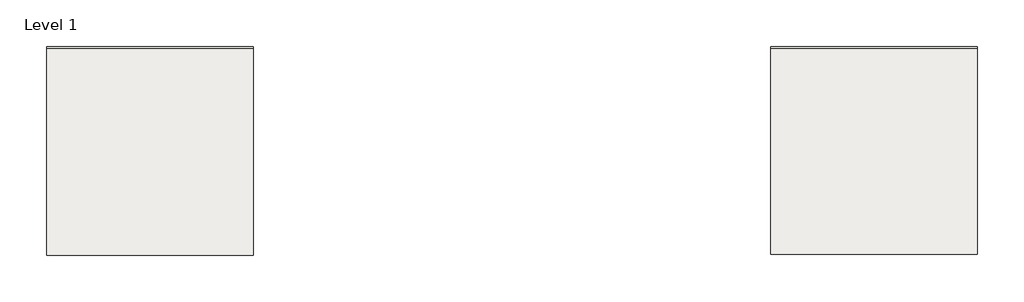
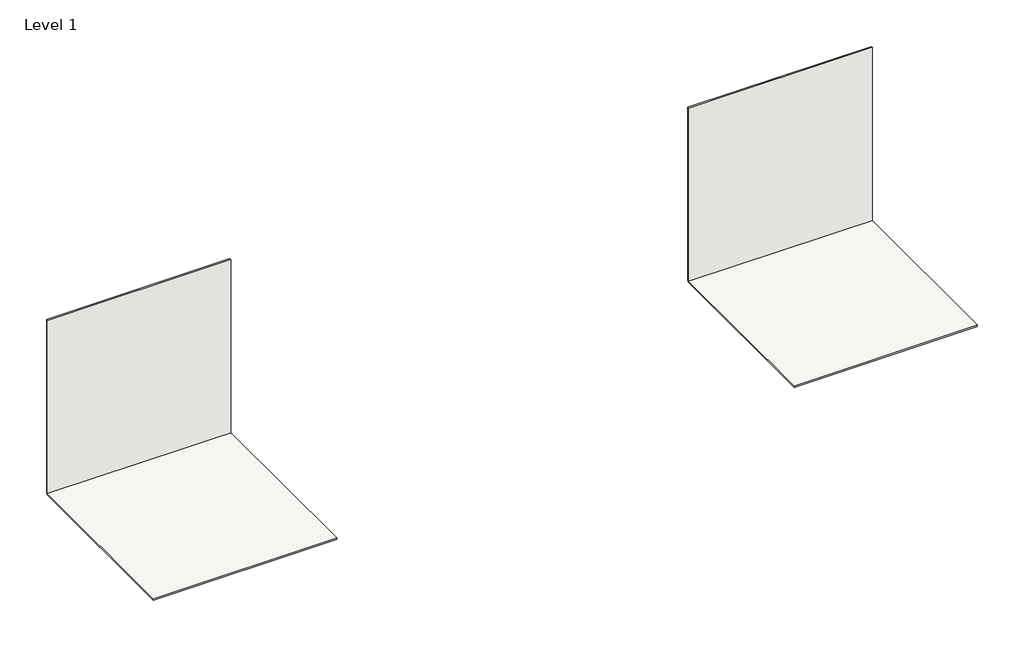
# One storey: 4 coverings.
"""IFC4 building model written with IfcOpenShell, lengths in millimetres."""

from ifc_helpers import new_model, si_unit, frame, origin, origin_with_axes, place, context, project, spatial, polyline, outline, extrude, element, save

model = new_model("IFC4")

# Units and contexts
model_context = context("Model", 3, world=origin())
ifc_project = project(units=[si_unit("LENGTHUNIT", "METRE", prefix="MILLI")], contexts=[model_context])

# Site, building, storey
site = spatial("IfcSite", under=ifc_project)
building = spatial("IfcBuilding", under=site)
storey = spatial("IfcBuildingStorey", under=building, Name="Level 1", Elevation=0.0)

# Coverings
placement = place(None, origin())
element("IfcCovering", 1, ObjectType="REVIGRES-LIMESTONE-DECOR-9.7x59.2-RECT-ANTIQUE MIST", at=placement, inside=storey, context=model_context, shape_type="SweptSolid", body=[
    extrude(outline(polyline([(-18709.3326298, -4077.781086), (-19709.3326298, -4077.781086), (-19709.3326298, -4069.281086), (-18709.3326298, -4069.281086), (-18709.3326298, -4077.781086)])), origin_with_axes(), (0.0, 0.0, 1.0), 1000.0),
])
element("IfcCovering", 2, ObjectType="REVIGRES-LIMESTONE-DECOR-9.7x59.2-RECT-ANTIQUE SAND", at=placement, inside=storey, context=model_context, shape_type="SweptSolid", body=[
    extrude(outline(polyline([(-16209.3576298, -4073.206086), (-15209.3576298, -4073.206086), (-15209.3576298, -5073.206086), (-16209.3576298, -5073.206086), (-16209.3576298, -4073.206086)])), frame((0.0, 0.0, -8.5), z_axis=(0.0, 0.0, 1.0), x_axis=(1.0, 0.0, 0.0)), (0.0, 0.0, 1.0), 8.5),
])
element("IfcCovering", 3, ObjectType="REVIGRES-LIMESTONE-DECOR-9.7x59.2-RECT-ANTIQUE SAND", at=placement, inside=storey, context=model_context, shape_type="SweptSolid", body=[
    extrude(outline(polyline([(-15209.3576298, -4077.456086), (-16209.3576298, -4077.456086), (-16209.3576298, -4068.956086), (-15209.3576298, -4068.956086), (-15209.3576298, -4077.456086)])), origin_with_axes(), (0.0, 0.0, 1.0), 1000.0),
])
element("IfcCovering", 4, ObjectType="REVIGRES-LIMESTONE-DECOR-9.7x59.2-RECT-ANTIQUE MIST", at=placement, inside=storey, context=model_context, shape_type="SweptSolid", body=[
    extrude(outline(polyline([(-19709.3326298, -4077.781086), (-18709.3326298, -4077.781086), (-18709.3326298, -5077.781086), (-19709.3326298, -5077.781086), (-19709.3326298, -4077.781086)])), frame((0.0, 0.0, -8.5), z_axis=(0.0, 0.0, 1.0), x_axis=(1.0, 0.0, 0.0)), (0.0, 0.0, 1.0), 8.5),
])

save(model, "model.ifc")
